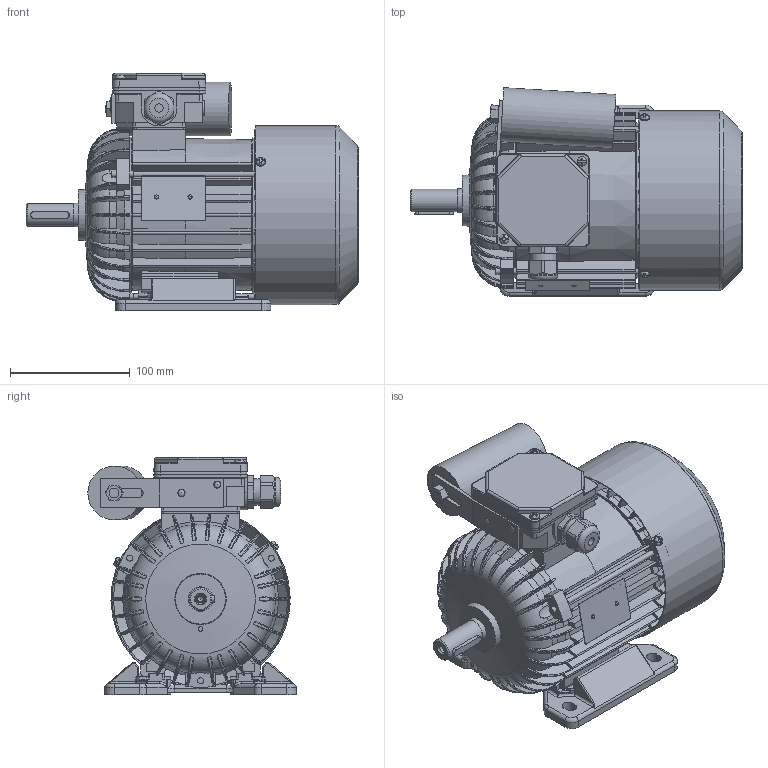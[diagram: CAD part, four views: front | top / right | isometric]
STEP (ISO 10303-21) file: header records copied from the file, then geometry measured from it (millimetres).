
FILE_DESCRIPTION(/* description */ ('Unknown'),/* implementation_level */ '2;1');
FILE_NAME(/* name */ '3SSIE80-2A',/* time_stamp */ '2024-06-27T13:23:43+02:00',/* author */ ('Unknown'),/* organization */ ('Unknown'),/* preprocessor_version */ 'ST-DEVELOPER v16.7',/* originating_system */ 'Solid Edge',/* authorisation */ 'Unknown');
FILE_SCHEMA (('AUTOMOTIVE_DESIGN {1 0 10303 214 3 1 1}'));
Length unit declared in the file: millimetre
Products named in the file (1): Czêœæ6
Bounding box: 277.78 x 174.3 x 198.5 mm (x, y, z)
Volume: 1085306.9 mm3; surface area: 538632 mm2
Topology: 3 solids, 3 shells, 3055 faces, 8609 edges, 5569 vertices
Faces by surface type: plane 1428, cylinder 955, torus 284, cone 196, bspline 168, sphere 24
Full cylindrical faces by diameter (mm): 2 x2, 2.4 x2, 3 x1, 3.7 x8, 4 x7, 4.3 x2, 4.5 x3, 4.6 x3, 4.8 x2, 4.917 x1, 5 x8, 5.5 x3, 6 x2, 6.399 x1, 6.5 x5, 7 x1, 8 x10, 18.998 x1, 19.298 x1, 19.498 x1, 19.998 x2, 20.4 x2, 22.3 x1, 25 x1, 25.497 x1, 25.997 x2, 26.097 x1, 26.997 x1, 28.799 x4, 34 x2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
Entity records: 128041 total; most frequent: CARTESIAN_POINT 30674, ORIENTED_EDGE 16510, DIRECTION 15094, EDGE_CURVE 8255, AXIS2_PLACEMENT_3D 5589, VERTEX_POINT 5442, LINE 3916, VECTOR 3916
